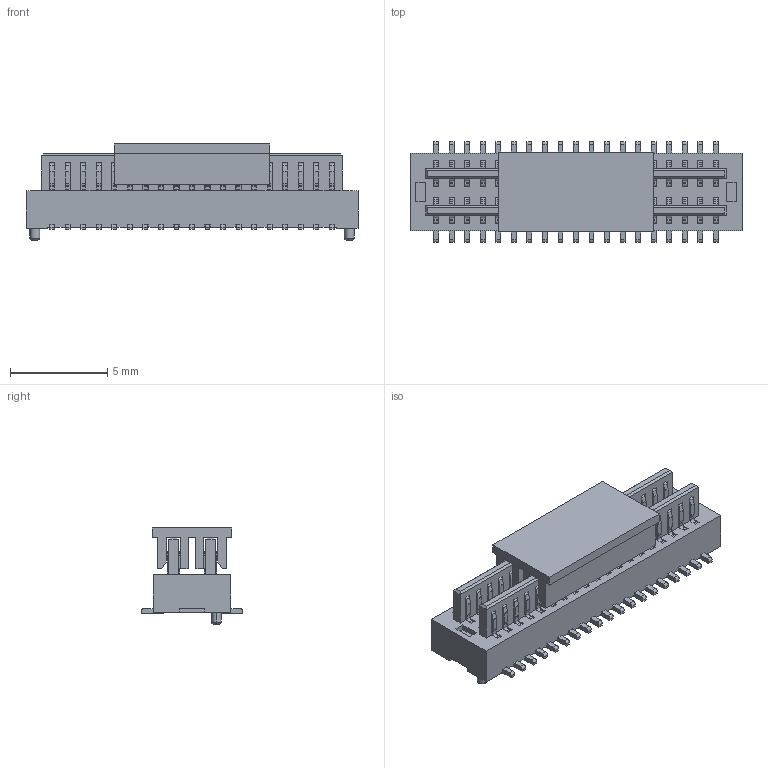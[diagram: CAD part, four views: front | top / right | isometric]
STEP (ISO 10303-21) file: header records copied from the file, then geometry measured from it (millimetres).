
FILE_DESCRIPTION (( 'STEP AP203' ), '1' );
FILE_NAME ('HC-PBB08-2-38-M-H2.0-G1-R-P-04(BTB0.8 双槽 公座 立贴 带柱 编带+盖)-HCTL.STEP', '2025-12-11T02:07:26', ( '' ), ( '' ), 'SwSTEP 2.0', 'SolidWorks 2025', '' );
FILE_SCHEMA (( 'CONFIG_CONTROL_DESIGN' ));
Products named in the file (1): HC-PBB08-2-38-M-H2.0-G1-R-P-04(BTB0.8 双槽 公座 立贴 带柱 编带+盖)-HCTL
Bounding box: 17.1 x 5.2 x 4.95 mm (x, y, z)
Volume: 197.4 mm3; surface area: 1090.9 mm2
Topology: 2 solids, 2 shells, 2246 faces, 7190 edges, 4688 vertices
Faces by surface type: plane 1478, cylinder 764, torus 4
Entity records: 79537 total; most frequent: CARTESIAN_POINT 14581, ORIENTED_EDGE 14380, DIRECTION 13068, EDGE_CURVE 7190, LINE 5502, VECTOR 5502, VERTEX_POINT 4688, AXIS2_PLACEMENT_3D 3783
